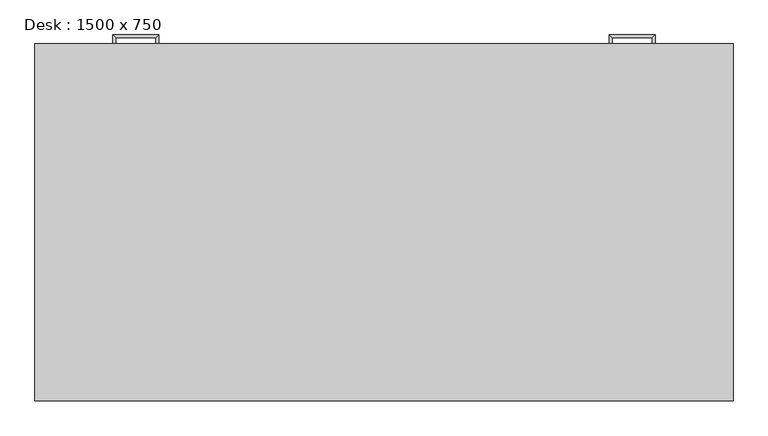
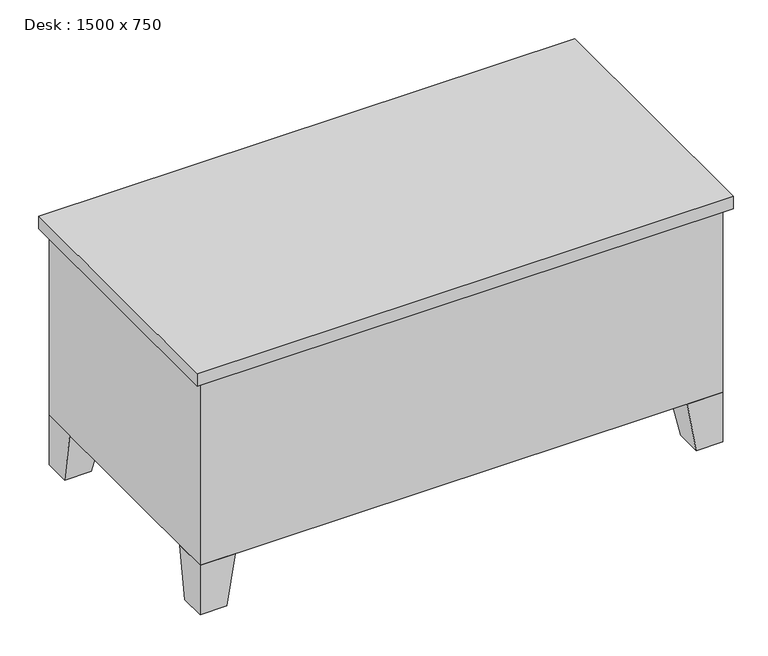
"""IFC4 building model written with IfcOpenShell, lengths in millimetres: furniture geometry, Desk : 1500 x 750."""

from ifc_helpers import new_model, si_unit, frame, origin, place, context, project, spatial, polyline, outline, extrude, faceted_brep, source, transform, mapped, element, save


def desk_1500_x_750_4c5f3064(model_context):
    return source(origin(), model_context, "Body", "SolidModel", [
        extrude(outline(polyline([(1480.95, 750.0), (1112.65, 750.0), (1112.65, 762.7), (1480.95, 762.7), (1480.95, 750.0)])), frame((0.0, 0.0, 591.25), z_axis=(0.0, 0.0, 1.0), x_axis=(1.0, 0.0, 0.0)), (0.0, 0.0, 1.0), 101.6),
        extrude(outline(polyline([(1480.95, 750.0), (1112.65, 750.0), (1112.65, 762.7), (1480.95, 762.7), (1480.95, 750.0)])), frame((0.0, 0.0, 169.05), z_axis=(0.0, 0.0, 1.0), x_axis=(1.0, 0.0, 0.0)), (0.0, 0.0, 1.0), 403.15),
        extrude(outline(polyline([(387.35, 750.0), (19.05, 750.0), (19.05, 762.7), (387.35, 762.7), (387.35, 750.0)])), frame((0.0, 0.0, 600.85), z_axis=(0.0, 0.0, 1.0), x_axis=(1.0, 0.0, 0.0)), (0.0, 0.0, 1.0), 92.0),
        extrude(outline(polyline([(387.35, 750.0), (19.05, 750.0), (19.05, 762.7), (387.35, 762.7), (387.35, 750.0)])), frame((0.0, 0.0, 169.05), z_axis=(0.0, 0.0, 1.0), x_axis=(1.0, 0.0, 0.0)), (0.0, 0.0, 1.0), 171.45),
        extrude(outline(polyline([(387.35, 750.0), (19.05, 750.0), (19.05, 762.7), (387.35, 762.7), (387.35, 750.0)])), frame((0.0, 0.0, 480.2), z_axis=(0.0, 0.0, 1.0), x_axis=(1.0, 0.0, 0.0)), (0.0, 0.0, 1.0), 101.6),
        extrude(outline(polyline([(387.35, 750.0), (19.05, 750.0), (19.05, 762.7), (387.35, 762.7), (387.35, 750.0)])), frame((0.0, 0.0, 359.55), z_axis=(0.0, 0.0, 1.0), x_axis=(1.0, 0.0, 0.0)), (0.0, 0.0, 1.0), 101.6),
        faceted_brep([(1398.4, 750.0, 150.0), (1398.4, 648.4, 150.0), (1500.0, 648.4, 150.0), (1500.0, 750.0, 150.0), (1423.8, 750.0, 0.0), (1500.0, 750.0, 0.0), (1500.0, 673.8, 0.0), (1423.8, 673.8, 0.0)], [[[0, 1, 2, 3]], [[4, 5, 6, 7]], [[4, 7, 1, 0]], [[7, 6, 2, 1]], [[6, 5, 3, 2]], [[5, 4, 0, 3]]]),
        faceted_brep([(1398.4, 0.0, 150.0), (1500.0, 0.0, 150.0), (1500.0, 101.6, 150.0), (1398.4, 101.6, 150.0), (1423.8, 0.0, 0.0), (1423.8, 76.2, 0.0), (1500.0, 76.2, 0.0), (1500.0, 0.0, 0.0)], [[[0, 1, 2, 3]], [[4, 5, 6, 7]], [[4, 7, 1, 0]], [[7, 6, 2, 1]], [[6, 5, 3, 2]], [[5, 4, 0, 3]]]),
        faceted_brep([(101.6, 0.0, 150.0), (101.6, 101.6, 150.0), (0.0, 101.6, 150.0), (0.0, 0.0, 150.0), (76.2, 0.0, 0.0), (0.0, 0.0, 0.0), (0.0, 76.2, 0.0), (76.2, 76.2, 0.0)], [[[0, 1, 2, 3]], [[4, 5, 6, 7]], [[4, 7, 1, 0]], [[7, 6, 2, 1]], [[6, 5, 3, 2]], [[5, 4, 0, 3]]]),
        faceted_brep([(101.6, 750.0, 150.0), (0.0, 750.0, 150.0), (0.0, 648.4, 150.0), (101.6, 648.4, 150.0), (76.2, 750.0, 0.0), (76.2, 673.8, 0.0), (0.0, 673.8, 0.0), (0.0, 750.0, 0.0)], [[[0, 1, 2, 3]], [[4, 5, 6, 7]], [[4, 7, 1, 0]], [[7, 6, 2, 1]], [[6, 5, 3, 2]], [[5, 4, 0, 3]]]),
        extrude(outline(polyline([(1519.05, 769.05), (1519.05, -19.05), (-19.05, -19.05), (-19.05, 769.05), (1519.05, 769.05)])), frame((0.0, 0.0, 711.9), z_axis=(0.0, 0.0, 1.0), x_axis=(1.0, 0.0, 0.0)), (0.0, 0.0, 1.0), 38.1),
        extrude(outline(polyline([(406.4, 750.0), (406.4, 50.8), (1093.6, 50.8), (1093.6, 750.0), (1500.0, 750.0), (1500.0, 0.0), (0.0, 0.0), (0.0, 750.0), (406.4, 750.0)])), frame((0.0, 0.0, 150.0), z_axis=(0.0, 0.0, 1.0), x_axis=(1.0, 0.0, 0.0)), (0.0, 0.0, 1.0), 561.9),
        faceted_brep([(1341.25, 762.7, 546.1), (1341.25, 762.7, 533.4), (1347.6, 762.7, 533.4), (1347.6, 762.7, 546.1), (1341.25, 781.75, 546.1), (1341.25, 781.75, 533.4), (1347.6, 788.1, 533.4), (1347.6, 788.1, 546.1), (1252.35, 781.75, 546.1), (1252.35, 781.75, 533.4), (1246.0, 788.1, 533.4), (1246.0, 788.1, 546.1), (1252.35, 762.7, 546.1), (1246.0, 762.7, 546.1), (1246.0, 762.7, 533.4), (1252.35, 762.7, 533.4)], [[[0, 1, 2, 3]], [[1, 0, 4, 5]], [[2, 1, 5, 6]], [[3, 2, 6, 7]], [[0, 3, 7, 4]], [[5, 4, 8, 9]], [[6, 5, 9, 10]], [[7, 6, 10, 11]], [[4, 7, 11, 8]], [[12, 13, 14, 15]], [[9, 8, 12, 15]], [[10, 9, 15, 14]], [[11, 10, 14, 13]], [[8, 11, 13, 12]]]),
        faceted_brep([(1341.25, 762.7, 666.75), (1341.25, 762.7, 654.05), (1347.6, 762.7, 654.05), (1347.6, 762.7, 666.75), (1341.25, 781.75, 666.75), (1341.25, 781.75, 654.05), (1347.6, 788.1, 654.05), (1347.6, 788.1, 666.75), (1252.35, 781.75, 666.75), (1252.35, 781.75, 654.05), (1246.0, 788.1, 654.05), (1246.0, 788.1, 666.75), (1252.35, 762.7, 666.75), (1246.0, 762.7, 666.75), (1246.0, 762.7, 654.05), (1252.35, 762.7, 654.05)], [[[0, 1, 2, 3]], [[1, 0, 4, 5]], [[2, 1, 5, 6]], [[3, 2, 6, 7]], [[0, 3, 7, 4]], [[5, 4, 8, 9]], [[6, 5, 9, 10]], [[7, 6, 10, 11]], [[4, 7, 11, 8]], [[12, 13, 14, 15]], [[9, 8, 12, 15]], [[10, 9, 15, 14]], [[11, 10, 14, 13]], [[8, 11, 13, 12]]]),
        faceted_brep([(158.75, 762.7, 304.8), (152.4, 762.7, 304.8), (152.4, 762.7, 292.1), (158.75, 762.7, 292.1), (158.75, 781.75, 304.8), (152.4, 788.1, 304.8), (152.4, 788.1, 292.1), (158.75, 781.75, 292.1), (247.65, 781.75, 304.8), (254.0, 788.1, 304.8), (254.0, 788.1, 292.1), (247.65, 781.75, 292.1), (247.65, 762.7, 304.8), (247.65, 762.7, 292.1), (254.0, 762.7, 292.1), (254.0, 762.7, 304.8)], [[[0, 1, 2, 3]], [[1, 0, 4, 5]], [[2, 1, 5, 6]], [[3, 2, 6, 7]], [[0, 3, 7, 4]], [[5, 4, 8, 9]], [[6, 5, 9, 10]], [[7, 6, 10, 11]], [[4, 7, 11, 8]], [[12, 13, 14, 15]], [[9, 8, 12, 15]], [[10, 9, 15, 14]], [[11, 10, 14, 13]], [[8, 11, 13, 12]]]),
        faceted_brep([(158.75, 762.7, 425.45), (152.4, 762.7, 425.45), (152.4, 762.7, 412.75), (158.75, 762.7, 412.75), (158.75, 781.75, 425.45), (152.4, 788.1, 425.45), (152.4, 788.1, 412.75), (158.75, 781.75, 412.75), (247.65, 781.75, 425.45), (254.0, 788.1, 425.45), (254.0, 788.1, 412.75), (247.65, 781.75, 412.75), (247.65, 762.7, 425.45), (247.65, 762.7, 412.75), (254.0, 762.7, 412.75), (254.0, 762.7, 425.45)], [[[0, 1, 2, 3]], [[1, 0, 4, 5]], [[2, 1, 5, 6]], [[3, 2, 6, 7]], [[0, 3, 7, 4]], [[5, 4, 8, 9]], [[6, 5, 9, 10]], [[7, 6, 10, 11]], [[4, 7, 11, 8]], [[12, 13, 14, 15]], [[9, 8, 12, 15]], [[10, 9, 15, 14]], [[11, 10, 14, 13]], [[8, 11, 13, 12]]]),
        faceted_brep([(158.75, 762.7, 546.1), (152.4, 762.7, 546.1), (152.4, 762.7, 533.4), (158.75, 762.7, 533.4), (158.75, 781.75, 546.1), (152.4, 788.1, 546.1), (152.4, 788.1, 533.4), (158.75, 781.75, 533.4), (247.65, 781.75, 546.1), (254.0, 788.1, 546.1), (254.0, 788.1, 533.4), (247.65, 781.75, 533.4), (247.65, 762.7, 546.1), (247.65, 762.7, 533.4), (254.0, 762.7, 533.4), (254.0, 762.7, 546.1)], [[[0, 1, 2, 3]], [[1, 0, 4, 5]], [[2, 1, 5, 6]], [[3, 2, 6, 7]], [[0, 3, 7, 4]], [[5, 4, 8, 9]], [[6, 5, 9, 10]], [[7, 6, 10, 11]], [[4, 7, 11, 8]], [[12, 13, 14, 15]], [[9, 8, 12, 15]], [[10, 9, 15, 14]], [[11, 10, 14, 13]], [[8, 11, 13, 12]]]),
        faceted_brep([(158.75, 762.7, 666.75), (152.4, 762.7, 666.75), (152.4, 762.7, 654.05), (158.75, 762.7, 654.05), (158.75, 781.75, 666.75), (152.4, 788.1, 666.75), (152.4, 788.1, 654.05), (158.75, 781.75, 654.05), (247.65, 781.75, 666.75), (254.0, 788.1, 666.75), (254.0, 788.1, 654.05), (247.65, 781.75, 654.05), (247.65, 762.7, 666.75), (247.65, 762.7, 654.05), (254.0, 762.7, 654.05), (254.0, 762.7, 666.75)], [[[0, 1, 2, 3]], [[1, 0, 4, 5]], [[2, 1, 5, 6]], [[3, 2, 6, 7]], [[0, 3, 7, 4]], [[5, 4, 8, 9]], [[6, 5, 9, 10]], [[7, 6, 10, 11]], [[4, 7, 11, 8]], [[12, 13, 14, 15]], [[9, 8, 12, 15]], [[10, 9, 15, 14]], [[11, 10, 14, 13]], [[8, 11, 13, 12]]]),
    ])


if __name__ == "__main__":
    model = new_model("IFC4")
    model_context = context("Model", 3, world=origin())
    ifc_project = project(units=[si_unit("LENGTHUNIT", "METRE", prefix="MILLI")], contexts=[model_context])
    site = spatial("IfcSite", under=ifc_project)
    building = spatial("IfcBuilding", under=site)
    placement = place(None, origin())
    desk_1500_x_750_shape = desk_1500_x_750_4c5f3064(model_context)
    element("IfcFurniture", 1, ObjectType="Desk : 1500 x 750", at=placement, inside=building, context=model_context, shape_type="MappedRepresentation", body=[
        mapped(desk_1500_x_750_shape, transform((0.0, 0.0, 0.0), x_axis=(1.0, 0.0, 0.0), y_axis=(0.0, 1.0, 0.0), z_axis=(0.0, 0.0, 1.0))),
    ])
    save(model, "model.ifc")
